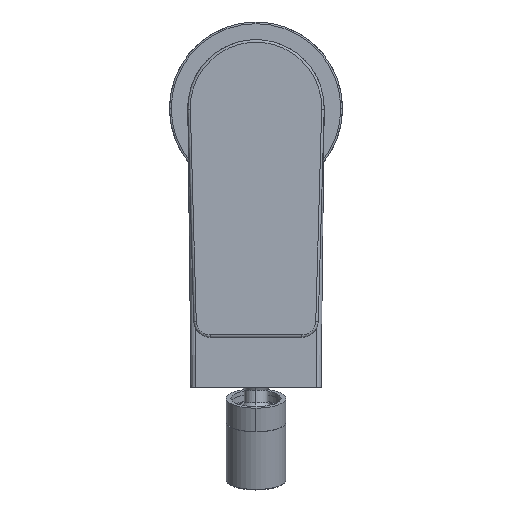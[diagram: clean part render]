
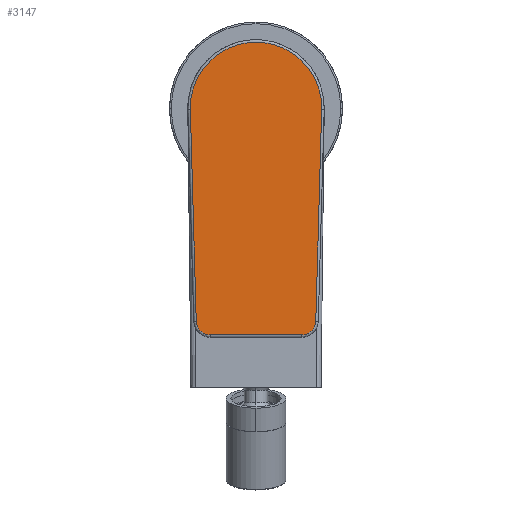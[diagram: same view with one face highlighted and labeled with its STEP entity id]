
A CAD part, top view. The second image highlights one B-rep face of the part: STEP entity #3147.
In plain terms, the highlighted planar face has unit normal (0, 0, 1).
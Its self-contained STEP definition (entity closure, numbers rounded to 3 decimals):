
#3089=CARTESIAN_POINT('',(-21.717,24.114,104.8));
#3090=DIRECTION('',(0.0,0.,1.));
#3091=DIRECTION('',(0.0,-1.,0.));
#3092=AXIS2_PLACEMENT_3D('',#3089,#3090,#3091);
#3093=PLANE('',#3092);
#3094=CARTESIAN_POINT('',(-13.718,-68.25,104.8));
#3095=VERTEX_POINT('',#3094);
#3096=CARTESIAN_POINT('',(13.718,-68.25,104.8));
#3097=VERTEX_POINT('',#3096);
#3098=CARTESIAN_POINT('',(-13.718,-68.25,104.8));
#3099=DIRECTION('',(1.0,0.0,0.0));
#3100=VECTOR('',#3099,27.437);
#3101=LINE('',#3098,#3100);
#3102=EDGE_CURVE('',#3095,#3097,#3101,.T.);
#3103=ORIENTED_EDGE('',*,*,#3102,.T.);
#3104=CARTESIAN_POINT('',(17.967,-64.119,104.8));
#3105=VERTEX_POINT('',#3104);
#3106=CARTESIAN_POINT('',(13.718,-64.,104.8));
#3107=DIRECTION('',(0.0,0.,1.));
#3108=DIRECTION('',(0.0,-1.,0.));
#3109=AXIS2_PLACEMENT_3D('',#3106,#3107,#3108);
#3110=CIRCLE('',#3109,4.25);
#3111=EDGE_CURVE('',#3097,#3105,#3110,.T.);
#3112=ORIENTED_EDGE('',*,*,#3111,.T.);
#3113=CARTESIAN_POINT('',(19.742,-0.551,104.8));
#3114=VERTEX_POINT('',#3113);
#3115=CARTESIAN_POINT('',(17.967,-64.119,104.8));
#3116=DIRECTION('',(0.028,1.,0.));
#3117=VECTOR('',#3116,63.592);
#3118=LINE('',#3115,#3117);
#3119=EDGE_CURVE('',#3105,#3114,#3118,.T.);
#3120=ORIENTED_EDGE('',*,*,#3119,.T.);
#3121=CARTESIAN_POINT('',(-19.742,-0.551,104.8));
#3122=VERTEX_POINT('',#3121);
#3123=CARTESIAN_POINT('',(0.,0.,104.8));
#3124=DIRECTION('',(0.0,0.,1.));
#3125=DIRECTION('',(1.,-0.028,0.));
#3126=AXIS2_PLACEMENT_3D('',#3123,#3124,#3125);
#3127=CIRCLE('',#3126,19.75);
#3128=EDGE_CURVE('',#3114,#3122,#3127,.T.);
#3129=ORIENTED_EDGE('',*,*,#3128,.T.);
#3130=CARTESIAN_POINT('',(-17.967,-64.119,104.8));
#3131=VERTEX_POINT('',#3130);
#3132=CARTESIAN_POINT('',(-19.742,-0.551,104.8));
#3133=DIRECTION('',(0.028,-1.,0.));
#3134=VECTOR('',#3133,63.592);
#3135=LINE('',#3132,#3134);
#3136=EDGE_CURVE('',#3122,#3131,#3135,.T.);
#3137=ORIENTED_EDGE('',*,*,#3136,.T.);
#3138=CARTESIAN_POINT('',(-13.718,-64.,104.8));
#3139=DIRECTION('',(0.0,0.,1.));
#3140=DIRECTION('',(-1.,-0.028,0.));
#3141=AXIS2_PLACEMENT_3D('',#3138,#3139,#3140);
#3142=CIRCLE('',#3141,4.25);
#3143=EDGE_CURVE('',#3131,#3095,#3142,.T.);
#3144=ORIENTED_EDGE('',*,*,#3143,.T.);
#3145=EDGE_LOOP('',(#3103,#3112,#3120,#3129,#3137,#3144));
#3146=FACE_OUTER_BOUND('',#3145,.T.);
#3147=ADVANCED_FACE('',(#3146),#3093,.T.);
